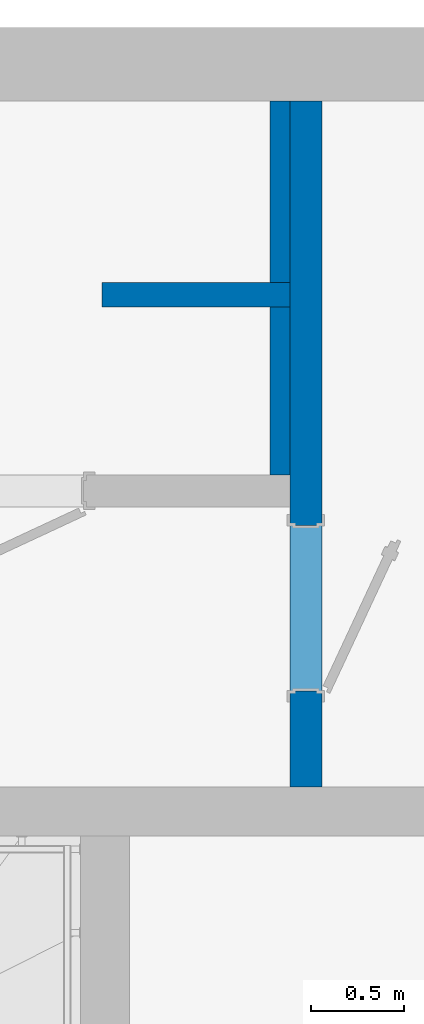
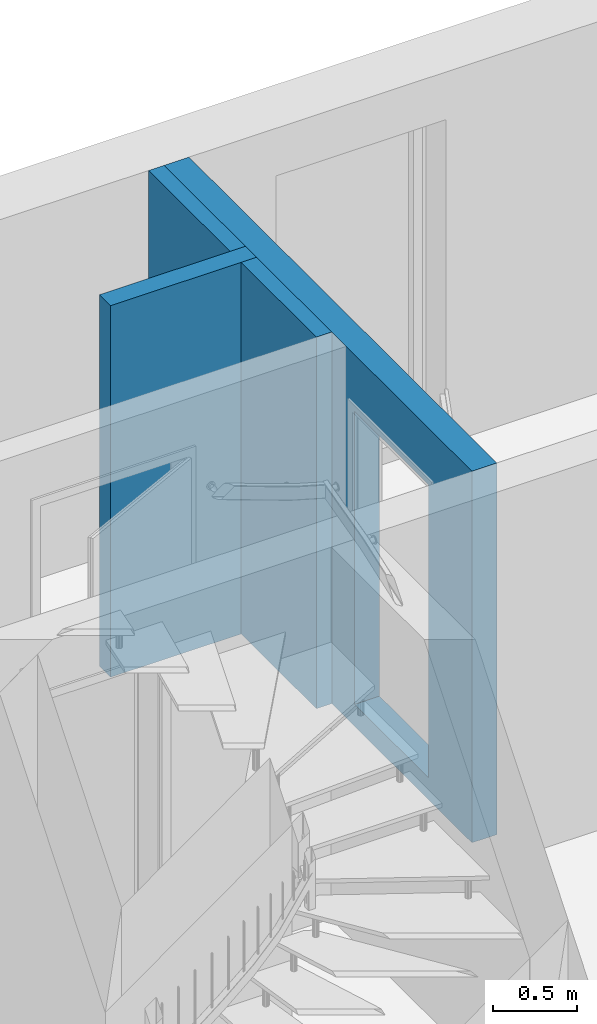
# One storey, part 12 of 13: 4 walls, 1 opening.
"""IFC2X3 building model written with IfcOpenShell, lengths in millimetres."""

from ifc_helpers import new_model, si_unit, frame, origin_with_axes, place, context, project, spatial, faceted_brep, material, layer, layer_set, layer_usage, element, save


model = new_model("IFC2X3")

# Units and contexts
model_context = context("Model", 3, world=origin_with_axes())
ifc_project = project(units=[si_unit("LENGTHUNIT", "METRE", prefix="MILLI")], contexts=[model_context])

# Site, building, storey
site_placement = place(None, origin_with_axes())
site = spatial("IfcSite", under=ifc_project, at=site_placement, Name="Site", CompositionType="ELEMENT")
building_placement = place(site_placement, origin_with_axes())
building = spatial("IfcBuilding", under=site, at=building_placement, Name="?", CompositionType="ELEMENT")
storey_placement = place(building_placement, origin_with_axes())
storey = spatial("IfcBuildingStorey", under=building, at=storey_placement, Name="Erdgeschoß", CompositionType="ELEMENT", Elevation=0.0)

# Wall, opening
ifc_material = material(Name="Material_IW")
ifc_layer_1 = layer(ifc_material, 172.0, ventilated=False)
ifc_layer_set_1 = layer_set([ifc_layer_1], Name="MaterialLayerSet_IW")
ifc_layer_usage_1 = layer_usage(ifc_layer_set_1, "AXIS2", "NEGATIVE", 86.0)
wall_1_placement = place(storey_placement, frame((14889.0, -395.0, 0.0), z_axis=(0.0, 0.0, 1.0), x_axis=(0.0, -1.0, 0.0)))
wall_1 = element("IfcWall", 1, at=wall_1_placement, inside=storey, material=ifc_layer_usage_1, Name="IW-04", context=model_context, shape_type="Brep", body=[
    faceted_brep([(3674.0, -86.0, 0.0), (3674.0, -86.0, 2707.0), (0.0, -86.0, 2707.0), (0.0, -86.0, 0.0), (3674.0, 86.0, 0.0), (3674.0, 86.0, 2707.0), (3674.0, -86.0, 2707.0), (3674.0, -86.0, 0.0), (0.0, 86.0, 0.0), (0.0, 86.0, 2707.0), (3674.0, 86.0, 2707.0), (3674.0, 86.0, 0.0), (0.0, -86.0, 0.0), (0.0, -86.0, 2707.0), (0.0, 86.0, 2707.0), (0.0, 86.0, 0.0), (0.0, -86.0, 0.0), (0.0, 86.0, 0.0), (3674.0, 86.0, 0.0), (3674.0, -86.0, 0.0), (0.0, -86.0, 2707.0), (3674.0, -86.0, 2707.0), (3674.0, 86.0, 2707.0), (0.0, 86.0, 2707.0)], [[[0, 1, 2, 3]], [[4, 5, 6, 7]], [[8, 9, 10, 11]], [[12, 13, 14, 15]], [[16, 17, 18, 19]], [[20, 21, 22, 23]]]),
])
opening_placement = place(wall_1_placement, frame((2274.0, 0.0, 160.0), z_axis=(0.0, 0.0, 1.0), x_axis=(1.0, 0.0, 0.0)))
element("IfcOpeningElement", 2, at=opening_placement, cuts=wall_1, Name="IW-04|IT03", context=model_context, shape_type="Brep", body=[
    faceted_brep([(0.0, 96.0, 0.0), (0.0, 96.0, 2135.0), (885.0, 96.0, 2135.0), (885.0, 96.0, 0.0), (0.0, -96.0, 0.0), (0.0, -96.0, 2135.0), (0.0, 96.0, 2135.0), (0.0, 96.0, 0.0), (885.0, -96.0, 0.0), (0.0, -96.0, 0.0), (0.0, 96.0, 0.0), (885.0, 96.0, 0.0), (885.0, -96.0, 2135.0), (885.0, -96.0, 0.0), (885.0, 96.0, 0.0), (885.0, 96.0, 2135.0), (0.0, -96.0, 2135.0), (885.0, -96.0, 2135.0), (885.0, 96.0, 2135.0), (0.0, 96.0, 2135.0), (0.0, -96.0, 0.0), (885.0, -96.0, 0.0), (885.0, -96.0, 2135.0), (0.0, -96.0, 2135.0)], [[[0, 1, 2, 3]], [[4, 5, 6, 7]], [[8, 9, 10, 11]], [[12, 13, 14, 15]], [[16, 17, 18, 19]], [[20, 21, 22, 23]]]),
])

# Walls
ifc_layer_2 = layer(ifc_material, 106.0, ventilated=False)
ifc_layer_set_2 = layer_set([ifc_layer_2], Name="MaterialLayerSet_IW")
ifc_layer_usage_2 = layer_usage(ifc_layer_set_2, "AXIS2", "NEGATIVE", 53.0)
wall_2_placement = place(storey_placement, frame((14750.0, -395.0, 0.0), z_axis=(0.0, 0.0, 1.0), x_axis=(0.0, -1.0, 0.0)))
element("IfcWall", 3, at=wall_2_placement, inside=storey, material=ifc_layer_usage_2, Name="IW-12", context=model_context, shape_type="Brep", body=[
    faceted_brep([(972.0, -53.0, 0.0), (972.0, -53.0, 2707.0), (0.0, -53.0, 2707.0), (0.0, -53.0, 0.0), (972.0, 53.0, 0.0), (972.0, 53.0, 2707.0), (972.0, -53.0, 2707.0), (972.0, -53.0, 0.0), (0.0, 53.0, 0.0), (0.0, 53.0, 2707.0), (972.0, 53.0, 2707.0), (972.0, 53.0, 0.0), (0.0, -53.0, 0.0), (0.0, -53.0, 2707.0), (0.0, 53.0, 2707.0), (0.0, 53.0, 0.0), (0.0, -53.0, 0.0), (0.0, 53.0, 0.0), (972.0, 53.0, 0.0), (972.0, -53.0, 0.0), (0.0, -53.0, 2707.0), (972.0, -53.0, 2707.0), (972.0, 53.0, 2707.0), (0.0, 53.0, 2707.0)], [[[0, 1, 2, 3]], [[4, 5, 6, 7]], [[8, 9, 10, 11]], [[12, 13, 14, 15]], [[16, 17, 18, 19]], [[20, 21, 22, 23]]]),
])
ifc_layer_3 = layer(ifc_material, 132.0, ventilated=False)
ifc_layer_set_3 = layer_set([ifc_layer_3], Name="MaterialLayerSet_IW")
ifc_layer_usage_3 = layer_usage(ifc_layer_set_3, "AXIS2", "NEGATIVE", 66.0)
wall_3_placement = place(storey_placement, frame((14803.0, -1433.0, 0.0), z_axis=(0.0, 0.0, 1.0), x_axis=(-1.0, 0.0, 0.0)))
element("IfcWall", 4, at=wall_3_placement, inside=storey, material=ifc_layer_usage_3, Name="IW-17", context=model_context, shape_type="Brep", body=[
    faceted_brep([(1006.0, -66.0, 0.0), (1006.0, -66.0, 2707.0), (0.0, -66.0, 2707.0), (0.0, -66.0, 0.0), (1006.0, 66.0, 0.0), (1006.0, 66.0, 2707.0), (1006.0, -66.0, 2707.0), (1006.0, -66.0, 0.0), (0.0, 66.0, 0.0), (0.0, 66.0, 2707.0), (1006.0, 66.0, 2707.0), (1006.0, 66.0, 0.0), (0.0, -66.0, 0.0), (0.0, -66.0, 2707.0), (0.0, 66.0, 2707.0), (0.0, 66.0, 0.0), (0.0, -66.0, 0.0), (0.0, 66.0, 0.0), (1006.0, 66.0, 0.0), (1006.0, -66.0, 0.0), (0.0, -66.0, 2707.0), (1006.0, -66.0, 2707.0), (1006.0, 66.0, 2707.0), (0.0, 66.0, 2707.0)], [[[0, 1, 2, 3]], [[4, 5, 6, 7]], [[8, 9, 10, 11]], [[12, 13, 14, 15]], [[16, 17, 18, 19]], [[20, 21, 22, 23]]]),
])
wall_4_placement = place(storey_placement, frame((14750.0, -1499.0, 0.0), z_axis=(0.0, 0.0, 1.0), x_axis=(0.0, -1.0, 0.0)))
element("IfcWall", 5, at=wall_4_placement, inside=storey, material=ifc_layer_usage_2, Name="IW-18", context=model_context, shape_type="Brep", body=[
    faceted_brep([(898.0, -53.0, 0.0), (898.0, -53.0, 2707.0), (0.0, -53.0, 2707.0), (0.0, -53.0, 0.0), (898.0, 53.0, 0.0), (898.0, 53.0, 2707.0), (898.0, -53.0, 2707.0), (898.0, -53.0, 0.0), (0.0, 53.0, 0.0), (0.0, 53.0, 2707.0), (898.0, 53.0, 2707.0), (898.0, 53.0, 0.0), (0.0, -53.0, 0.0), (0.0, -53.0, 2707.0), (0.0, 53.0, 2707.0), (0.0, 53.0, 0.0), (0.0, -53.0, 0.0), (0.0, 53.0, 0.0), (898.0, 53.0, 0.0), (898.0, -53.0, 0.0), (0.0, -53.0, 2707.0), (898.0, -53.0, 2707.0), (898.0, 53.0, 2707.0), (0.0, 53.0, 2707.0)], [[[0, 1, 2, 3]], [[4, 5, 6, 7]], [[8, 9, 10, 11]], [[12, 13, 14, 15]], [[16, 17, 18, 19]], [[20, 21, 22, 23]]]),
])

save(model, "model.ifc")
